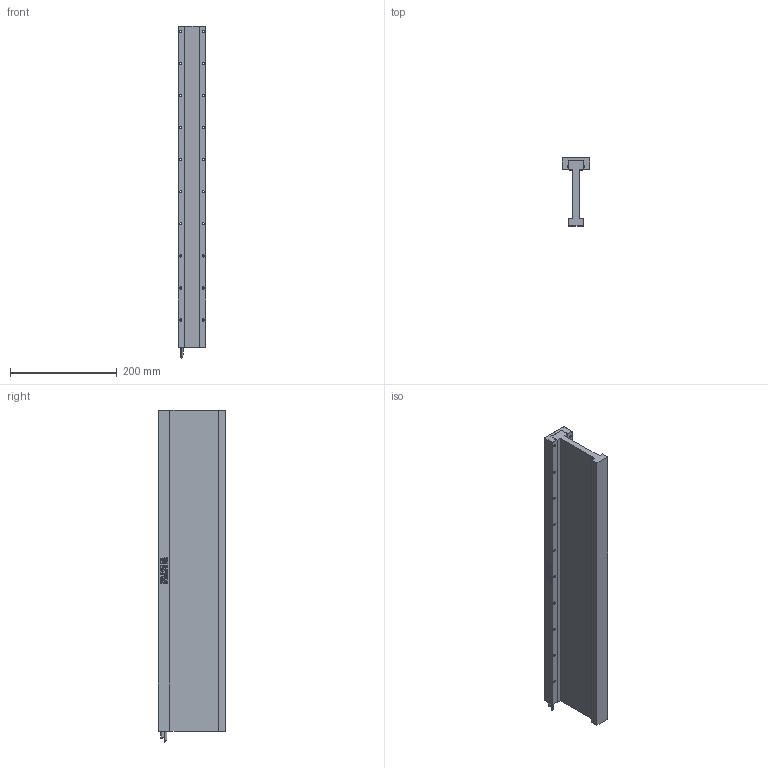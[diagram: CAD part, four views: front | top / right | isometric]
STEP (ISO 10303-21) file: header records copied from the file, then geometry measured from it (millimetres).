
FILE_DESCRIPTION (( 'STEP AP214' ), '1' );
FILE_NAME ('DX90B-C10-000.STEP', '2016-05-09T09:51:49', ( '' ), ( '' ), 'SwSTEP 2.0', 'SolidWorks 2015', '' );
FILE_SCHEMA (( 'AUTOMOTIVE_DESIGN' ));
Length unit declared in the file: millimetre
Products named in the file (5): DX90B-C10-001_CUSTOMER ; CBL_MTR_HALL_SS_5C_SA (#2935-1); CBL_MTR_PWR_SS_7C2C_SA (#2936-1); DX90B-CX-002_C10; DX90B-C10-000
Assembly tree (4 placements, depth 2):
  DX90B-C10-000
    DX90B-CX-002_C10
    CBL_MTR_PWR_SS_7C2C_SA (#2936-1)
    CBL_MTR_HALL_SS_5C_SA (#2935-1)
    DX90B-C10-001_CUSTOMER 
Bounding box: 52 x 127 x 621 mm (x, y, z)
Volume: 1533543.1 mm3; surface area: 318537.8 mm2
Topology: 4 solids, 4 shells, 736 faces, 1956 edges, 1296 vertices
Faces by surface type: plane 385, bspline 300, cylinder 51
Entity records: 39493 total; most frequent: CARTESIAN_POINT 22399, ORIENTED_EDGE 3912, DIRECTION 2341, EDGE_CURVE 1956, VERTEX_POINT 1296, LINE 1257, VECTOR 1257, EDGE_LOOP 844
